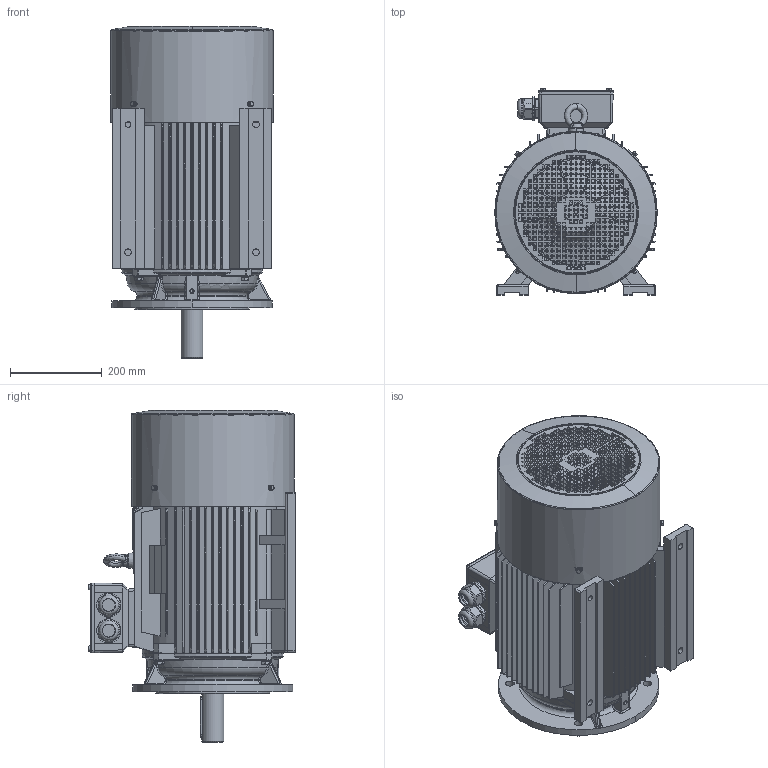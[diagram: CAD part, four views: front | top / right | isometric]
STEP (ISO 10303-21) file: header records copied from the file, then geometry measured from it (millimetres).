
FILE_DESCRIPTION(/* description */ (''),/* implementation_level */ '2;1');
FILE_NAME(/* name */ 'JM1-180L-B35.stp',/* time_stamp */ '2016-07-07T09:16:08+08:00',/* author */ (''),/* organization */ (''),/* preprocessor_version */ 'ST-DEVELOPER v15',/* originating_system */ 'SIEMENS PLM Software NX 8.5',/* authorisation */ '');
FILE_SCHEMA (('AUTOMOTIVE_DESIGN { 1 0 10303 214 3 1 1 1 }'));
Length unit declared in the file: millimetre
Products named in the file (1): pc063483D2x2vz
Bounding box: 355 x 450.6 x 724.98 mm (x, y, z)
Volume: 13851397.3 mm3; surface area: 3733832.5 mm2
Topology: 60 solids, 61 shells, 5005 faces, 13337 edges, 8574 vertices
Faces by surface type: plane 2833, cylinder 1017, torus 419, bspline 396, cone 332, sphere 8
Full cylindrical faces by diameter (mm): 5.35 x4, 6 x8, 6.4 x4, 7.188 x10, 8 x10, 9.026 x8, 9.1 x10, 10 x9, 11.2 x8, 12 x4, 16 x1, 27.5 x2, 32.5 x4, 38.75 x12, 40 x4, 41.25 x12, 43.125 x2, 48 x1, 49 x1, 51 x1, 52 x1, 53.125 x2, 352 x1, 355 x1
Entity records: 180593 total; most frequent: CARTESIAN_POINT 59125, ORIENTED_EDGE 25876, DIRECTION 23093, EDGE_CURVE 12938, VERTEX_POINT 8454, LINE 7855, VECTOR 7855, AXIS2_PLACEMENT_3D 7619
